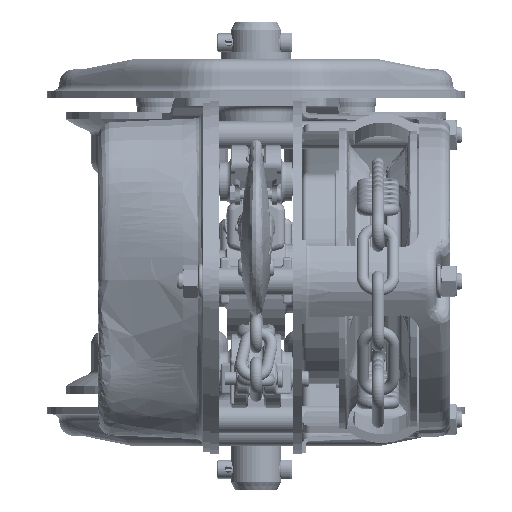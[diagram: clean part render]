
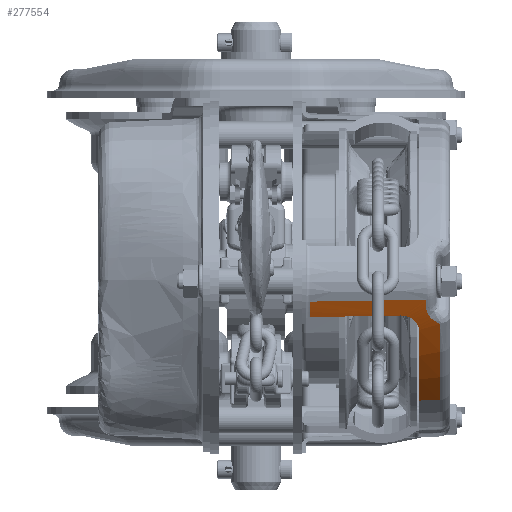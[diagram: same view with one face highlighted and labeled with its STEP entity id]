
A CAD part, front view. The second image highlights one B-rep face of the part: STEP entity #277554.
In plain terms, the highlighted conical face has half-angle 2 degrees and reference radius 151.599 mm.
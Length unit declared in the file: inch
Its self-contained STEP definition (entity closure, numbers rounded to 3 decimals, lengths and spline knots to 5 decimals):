
#2041 = CARTESIAN_POINT ( 'NONE',  ( -0.58548, -1.69291, 2.95825 ) ) ;
#4057 = CARTESIAN_POINT ( 'NONE',  ( -0.59456, -1.17367, 2.97398 ) ) ;
#4603 = VERTEX_POINT ( 'NONE', #133449 ) ;
#9343 = CARTESIAN_POINT ( 'NONE',  ( -0.63633, -1.88537, 2.91672 ) ) ;
#13334 = CARTESIAN_POINT ( 'NONE',  ( -0.72679, -1.97566, 2.85136 ) ) ;
#15668 = ORIENTED_EDGE ( 'NONE', *, *, #318187, .T. ) ;
#18518 = CARTESIAN_POINT ( 'NONE',  ( -2.05686, -2.36853, 1.5554 ) ) ;
#22714 = DIRECTION ( 'NONE',  ( 0., 0., 1. ) ) ;
#23016 = VECTOR ( 'NONE', #124755, 39.37008 ) ;
#37699 = ORIENTED_EDGE ( 'NONE', *, *, #336520, .F. ) ;
#41809 = CARTESIAN_POINT ( 'NONE',  ( -0.69099, -2.29129, 2.86267 ) ) ;
#41954 = CARTESIAN_POINT ( 'NONE',  ( -0.80651, -2.00583, 2.79376 ) ) ;
#47984 = CARTESIAN_POINT ( 'NONE',  ( -0.5926, -1.77504, 2.95019 ) ) ;
#48405 = FACE_OUTER_BOUND ( 'NONE', #223731, .T. ) ;
#59001 = EDGE_CURVE ( 'NONE', #193531, #382888, #115174, .T. ) ;
#59352 = CARTESIAN_POINT ( 'NONE',  ( 2.6378, -2.36853, -1.99471 ) ) ;
#63029 = VERTEX_POINT ( 'NONE', #148989 ) ;
#72394 = CARTESIAN_POINT ( 'NONE',  ( -0.72453, -2.35258, 2.8369 ) ) ;
#74514 = CARTESIAN_POINT ( 'NONE',  ( -0.58651, -1.73462, 2.95584 ) ) ;
#74915 = B_SPLINE_CURVE_WITH_KNOTS ( 'NONE', 3,
 ( #2041, #4057, #128470, #153046 ),
 .UNSPECIFIED., .F., .F.,
 ( 4, 4 ),
 ( 0., 0.03959 ),
 .UNSPECIFIED. ) ;
#78055 = EDGE_CURVE ( 'NONE', #4603, #382888, #74915, .T. ) ;
#93767 = CARTESIAN_POINT ( 'NONE',  ( -2.0669, -2.00787, 1.563 ) ) ;
#94572 = VERTEX_POINT ( 'NONE', #254701 ) ;
#103018 = CARTESIAN_POINT ( 'NONE',  ( -0.73211, -2.36853, 2.83093 ) ) ;
#103170 = CARTESIAN_POINT ( 'NONE',  ( -0.58512, -1.71376, 2.95762 ) ) ;
#105013 = CARTESIAN_POINT ( 'NONE',  ( -0.62852, -2.21202, 2.90823 ) ) ;
#105159 = CARTESIAN_POINT ( 'NONE',  ( -0.62246, -1.8598, 2.927 ) ) ;
#111299 = CARTESIAN_POINT ( 'NONE',  ( -0.61272, -0.13518, 3.00543 ) ) ;
#113611 = DIRECTION ( 'NONE',  ( 0., 1., 0. ) ) ;
#115174 = CIRCLE ( 'NONE', #199950, 5.96382 ) ;
#124755 = DIRECTION ( 'NONE',  ( -0.028, 0.999, 0.021 ) ) ;
#128470 = CARTESIAN_POINT ( 'NONE',  ( -0.60364, -0.65443, 2.9897 ) ) ;
#131634 = CIRCLE ( 'NONE', #327374, 5.89843 ) ;
#133449 = CARTESIAN_POINT ( 'NONE',  ( -0.58548, -1.69291, 2.95825 ) ) ;
#133757 = CARTESIAN_POINT ( 'NONE',  ( -0.60673, -1.82331, 2.93891 ) ) ;
#134249 = AXIS2_PLACEMENT_3D ( 'NONE', #264669, #113611, #174865 ) ;
#144841 = EDGE_CURVE ( 'NONE', #159398, #254360, #216020, .T. ) ;
#145667 = CARTESIAN_POINT ( 'NONE',  ( -0.47384, -2.1323, 3.01122 ) ) ;
#148989 = CARTESIAN_POINT ( 'NONE',  ( -0.44187, -2.1323, 3.03081 ) ) ;
#153046 = CARTESIAN_POINT ( 'NONE',  ( -0.61272, -0.13518, 3.00543 ) ) ;
#159398 = VERTEX_POINT ( 'NONE', #18518 ) ;
#163728 = CARTESIAN_POINT ( 'NONE',  ( -0.34412, -0.13518, 3.17011 ) ) ;
#164424 = CARTESIAN_POINT ( 'NONE',  ( -0.59727, -1.79468, 2.94631 ) ) ;
#166399 = CARTESIAN_POINT ( 'NONE',  ( -0.77375, -1.99783, 2.8175 ) ) ;
#168232 = CARTESIAN_POINT ( 'NONE',  ( -0.66189, -2.24938, 2.88426 ) ) ;
#168383 = CARTESIAN_POINT ( 'NONE',  ( -0.61818, -1.85098, 2.9302 ) ) ;
#170597 = ORIENTED_EDGE ( 'NONE', *, *, #59001, .T. ) ;
#172421 = CARTESIAN_POINT ( 'NONE',  ( -0.58548, -1.69291, 2.95825 ) ) ;
#173086 = VECTOR ( 'NONE', #390949, 39.37008 ) ;
#174865 = DIRECTION ( 'NONE',  ( 0., 0., -1. ) ) ;
#180339 = DIRECTION ( 'NONE',  ( 0., 0., 1. ) ) ;
#184153 = CARTESIAN_POINT ( 'NONE',  ( -0.73211, -2.36853, 2.83093 ) ) ;
#187462 = DIRECTION ( 'NONE',  ( 0., 0., -1. ) ) ;
#191714 = ORIENTED_EDGE ( 'NONE', *, *, #144841, .T. ) ;
#193531 = VERTEX_POINT ( 'NONE', #163728 ) ;
#195479 = EDGE_CURVE ( 'NONE', #254360, #63029, #254388, .T. ) ;
#196885 = CARTESIAN_POINT ( 'NONE',  ( -0.672, -2.2629, 2.87683 ) ) ;
#198869 = CARTESIAN_POINT ( 'NONE',  ( -0.56342, -2.16345, 2.953 ) ) ;
#199950 = AXIS2_PLACEMENT_3D ( 'NONE', #204636, #212697, #271873 ) ;
#201017 = CARTESIAN_POINT ( 'NONE',  ( -0.61032, -1.83275, 2.93615 ) ) ;
#203065 = CARTESIAN_POINT ( 'NONE',  ( -0.84008, -2.00787, 2.76931 ) ) ;
#204636 = CARTESIAN_POINT ( 'NONE',  ( 2.6378, -0.13518, -1.99471 ) ) ;
#211344 = CARTESIAN_POINT ( 'NONE',  ( -0.34644, -0.0022, 3.17414 ) ) ;
#212697 = DIRECTION ( 'NONE',  ( 0., -1., 0. ) ) ;
#216020 = CIRCLE ( 'NONE', #222472, 5.88583 ) ;
#217501 = ORIENTED_EDGE ( 'NONE', *, *, #78055, .F. ) ;
#222472 = AXIS2_PLACEMENT_3D ( 'NONE', #59352, #402123, #22714 ) ;
#223731 = EDGE_LOOP ( 'NONE', ( #217501, #37699, #15668, #380997, #191714, #288136, #396591, #313166, #170597 ) ) ;
#225711 = CARTESIAN_POINT ( 'NONE',  ( -0.64692, -1.90126, 2.90898 ) ) ;
#239582 = CARTESIAN_POINT ( 'NONE',  ( 2.6378, -2.1323, -1.99471 ) ) ;
#241591 = CARTESIAN_POINT ( 'NONE',  ( -0.44187, -2.1323, 3.03081 ) ) ;
#254360 = VERTEX_POINT ( 'NONE', #184153 ) ;
#254388 = B_SPLINE_CURVE_WITH_KNOTS ( 'NONE', 3,
 ( #103018, #72394, #384536, #283235, #41809, #196885, #168232, #321349, #105013, #323339, #353927, #198869, #398625, #333411, #145667, #241591 ),
 .UNSPECIFIED., .F., .F.,
 ( 4, 2, 2, 2, 2, 2, 2, 4 ),
 ( 0., 0.00142, 0.00284, 0.00426, 0.00568, 0.0071, 0.00852, 0.01135 ),
 .UNSPECIFIED. ) ;
#254701 = CARTESIAN_POINT ( 'NONE',  ( -0.30925, -2.1323, 3.10972 ) ) ;
#262253 = CARTESIAN_POINT ( 'NONE',  ( -0.82344, -2.00787, 2.78145 ) ) ;
#263852 = CONICAL_SURFACE ( 'NONE', #134249, 5.96847, 0.035 ) ;
#264669 = CARTESIAN_POINT ( 'NONE',  ( 2.6378, -0.0022, -1.99471 ) ) ;
#270615 = VERTEX_POINT ( 'NONE', #299890 ) ;
#271873 = DIRECTION ( 'NONE',  ( 0., 0., 1. ) ) ;
#277289 = DIRECTION ( 'NONE',  ( 0., -1., 0. ) ) ;
#277554 = ADVANCED_FACE ( 'NONE', ( #48405 ), #263852, .T. ) ;
#283235 = CARTESIAN_POINT ( 'NONE',  ( -0.69988, -2.30618, 2.85593 ) ) ;
#288136 = ORIENTED_EDGE ( 'NONE', *, *, #195479, .T. ) ;
#289451 = EDGE_CURVE ( 'NONE', #94572, #193531, #397008, .T. ) ;
#290867 = CARTESIAN_POINT ( 'NONE',  ( -0.71194, -1.96595, 2.86205 ) ) ;
#299890 = CARTESIAN_POINT ( 'NONE',  ( -0.84008, -2.00787, 2.76931 ) ) ;
#305905 = CARTESIAN_POINT ( 'NONE',  ( 2.6378, -2.00787, -1.99471 ) ) ;
#313166 = ORIENTED_EDGE ( 'NONE', *, *, #289451, .T. ) ;
#318187 = EDGE_CURVE ( 'NONE', #270615, #370862, #131634, .T. ) ;
#321349 = CARTESIAN_POINT ( 'NONE',  ( -0.64017, -2.22396, 2.89994 ) ) ;
#323339 = CARTESIAN_POINT ( 'NONE',  ( -0.60367, -2.19018, 2.92561 ) ) ;
#327374 = AXIS2_PLACEMENT_3D ( 'NONE', #305905, #277289, #187462 ) ;
#327517 = CARTESIAN_POINT ( 'NONE',  ( -0.6709, -1.93063, 2.8916 ) ) ;
#333411 = CARTESIAN_POINT ( 'NONE',  ( -0.50463, -2.13838, 2.99169 ) ) ;
#336520 = EDGE_CURVE ( 'NONE', #270615, #4603, #337431, .T. ) ;
#337431 = B_SPLINE_CURVE_WITH_KNOTS ( 'NONE', 3,
 ( #203065, #262253, #41954, #166399, #386670, #388696, #13334, #290867, #358081, #382706, #327517, #225711, #9343, #105159, #168383, #201017, #133757, #164424, #47984, #74514, #103170, #172421 ),
 .UNSPECIFIED., .F., .F.,
 ( 4, 2, 2, 2, 2, 2, 2, 2, 2, 2, 4 ),
 ( 0.01255, 0.01411, 0.01568, 0.01646, 0.01725, 0.01881, 0.02038, 0.02117, 0.02195, 0.02352, 0.02508 ),
 .UNSPECIFIED. ) ;
#344229 = CIRCLE ( 'NONE', #396347, 5.89408 ) ;
#353927 = CARTESIAN_POINT ( 'NONE',  ( -0.59066, -2.18045, 2.93457 ) ) ;
#358081 = CARTESIAN_POINT ( 'NONE',  ( -0.70475, -1.96068, 2.86722 ) ) ;
#363994 = DIRECTION ( 'NONE',  ( 0., 1., 0. ) ) ;
#370862 = VERTEX_POINT ( 'NONE', #93767 ) ;
#371670 = LINE ( 'NONE', #375711, #23016 ) ;
#375711 = CARTESIAN_POINT ( 'NONE',  ( -2.12277, -0.0022, 1.60524 ) ) ;
#380997 = ORIENTED_EDGE ( 'NONE', *, *, #386261, .F. ) ;
#382706 = CARTESIAN_POINT ( 'NONE',  ( -0.68389, -1.94363, 2.88224 ) ) ;
#382888 = VERTEX_POINT ( 'NONE', #111299 ) ;
#384536 = CARTESIAN_POINT ( 'NONE',  ( -0.71666, -2.33686, 2.84303 ) ) ;
#386261 = EDGE_CURVE ( 'NONE', #159398, #370862, #371670, .T. ) ;
#386670 = CARTESIAN_POINT ( 'NONE',  ( -0.75779, -1.99191, 2.82903 ) ) ;
#388696 = CARTESIAN_POINT ( 'NONE',  ( -0.73448, -1.98011, 2.84582 ) ) ;
#390949 = DIRECTION ( 'NONE',  ( -0.017, 0.999, 0.03 ) ) ;
#396347 = AXIS2_PLACEMENT_3D ( 'NONE', #239582, #363994, #180339 ) ;
#396591 = ORIENTED_EDGE ( 'NONE', *, *, #400625, .T. ) ;
#397008 = LINE ( 'NONE', #211344, #173086 ) ;
#398625 = CARTESIAN_POINT ( 'NONE',  ( -0.54916, -2.15617, 2.96251 ) ) ;
#400625 = EDGE_CURVE ( 'NONE', #63029, #94572, #344229, .T. ) ;
#402123 = DIRECTION ( 'NONE',  ( 0., 1., 0. ) ) ;
